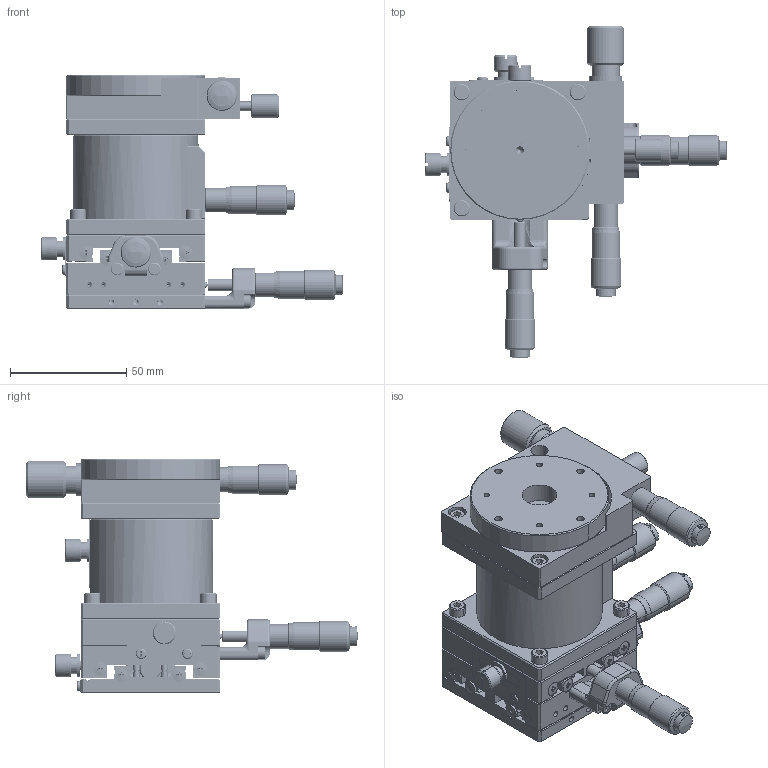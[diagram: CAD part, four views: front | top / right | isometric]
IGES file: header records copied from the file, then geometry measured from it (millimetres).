
Global section: file name: No Iges File Name specified; native system: AutoDesk Inventor R12.0; preprocessor: AutoDesk Inventor Iges Exporter R12.0; author: No Author specified; organization: No Organization specified; date: 20091016.170750; units: millimetre
Bounding box: 130.37 x 142.87 x 101 mm (x, y, z)
Volume: 298916 mm3; surface area: 135755.6 mm2
Topology: 28 solids, 105 shells, 3344 faces, 8062 edges, 5118 vertices
Faces by surface type: plane 1318, bspline 760, cylinder 623, revolution 325, cone 254, sphere 36, torus 28
